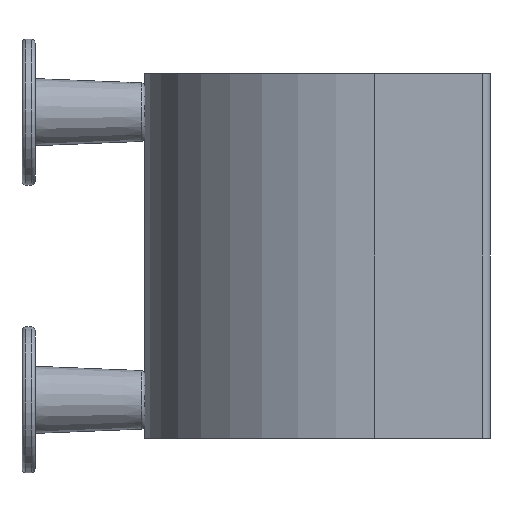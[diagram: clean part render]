
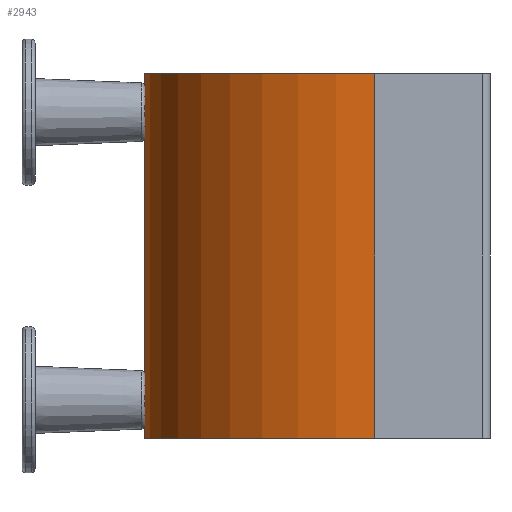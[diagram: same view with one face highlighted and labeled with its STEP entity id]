
A CAD part, left-side view. The second image highlights one B-rep face of the part: STEP entity #2943.
In plain terms, the highlighted cylindrical face has radius 76.2 mm (diameter 152.4 mm), a partial arc.
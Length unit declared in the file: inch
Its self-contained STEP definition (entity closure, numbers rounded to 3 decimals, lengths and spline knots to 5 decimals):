
#49 = CARTESIAN_POINT ( 'NONE',  ( -2.375, 4.49829, -2.89886 ) ) ;
#89 = CARTESIAN_POINT ( 'NONE',  ( 1.92987, 4.49705, -2.86691 ) ) ;
#117 = VERTEX_POINT ( 'NONE', #6346 ) ;
#218 = CARTESIAN_POINT ( 'NONE',  ( -1.81373, 4.49728, -2.8722 ) ) ;
#227 = VECTOR ( 'NONE', #1050, 39.37008 ) ;
#435 = VERTEX_POINT ( 'NONE', #1189 ) ;
#483 = DIRECTION ( 'NONE',  ( -1., 0., 0. ) ) ;
#512 = CARTESIAN_POINT ( 'NONE',  ( 1.8203, 4.49704, -2.8668 ) ) ;
#546 = CARTESIAN_POINT ( 'NONE',  ( -1.91552, 4.49665, -2.85809 ) ) ;
#549 = VERTEX_POINT ( 'NONE', #7530 ) ;
#563 = CIRCLE ( 'NONE', #608, 3. ) ;
#608 = AXIS2_PLACEMENT_3D ( 'NONE', #5923, #2394, #6517 ) ;
#610 = VERTEX_POINT ( 'NONE', #4555 ) ;
#695 = CARTESIAN_POINT ( 'NONE',  ( 1.9079, 4.49648, -2.85475 ) ) ;
#791 = CARTESIAN_POINT ( 'NONE',  ( -2.375, 1.5, 0. ) ) ;
#800 = EDGE_CURVE ( 'NONE', #1007, #5560, #6532, .T. ) ;
#822 = CARTESIAN_POINT ( 'NONE',  ( -1.83448, 4.49664, -2.85808 ) ) ;
#991 = VERTEX_POINT ( 'NONE', #6593 ) ;
#1007 = VERTEX_POINT ( 'NONE', #3057 ) ;
#1050 = DIRECTION ( 'NONE',  ( -1., 0., 0. ) ) ;
#1106 = CARTESIAN_POINT ( 'NONE',  ( 1.80245, 4.49778, -2.88444 ) ) ;
#1152 = CARTESIAN_POINT ( 'NONE',  ( -1.93628, 4.49728, -2.87222 ) ) ;
#1189 = CARTESIAN_POINT ( 'NONE',  ( 1.95617, 4.49829, -2.89886 ) ) ;
#1257 = VECTOR ( 'NONE', #4035, 39.37008 ) ;
#1294 = CARTESIAN_POINT ( 'NONE',  ( 1.88343, 4.4962, -2.849 ) ) ;
#1329 = B_SPLINE_CURVE_WITH_KNOTS ( 'NONE', 3,
 ( #2875, #6997, #3460, #7591, #4041, #512, #4654, #1106, #5261, #1719 ),
 .UNSPECIFIED., .F., .F.,
 ( 4, 2, 2, 2, 4 ),
 ( 0., 0.00063, 0.00127, 0.0019, 0.00253 ),
 .UNSPECIFIED. ) ;
#1420 = CARTESIAN_POINT ( 'NONE',  ( -1.85817, 4.49626, -2.85018 ) ) ;
#1451 = EDGE_CURVE ( 'NONE', #610, #117, #4695, .T. ) ;
#1611 = VECTOR ( 'NONE', #483, 39.37008 ) ;
#1719 = CARTESIAN_POINT ( 'NONE',  ( 1.79383, 4.49829, -2.89886 ) ) ;
#1736 = FACE_OUTER_BOUND ( 'NONE', #4843, .T. ) ;
#1758 = CARTESIAN_POINT ( 'NONE',  ( -1.9524, 4.49804, -2.89142 ) ) ;
#1939 = CARTESIAN_POINT ( 'NONE',  ( 2.375, 4.49829, -2.89886 ) ) ;
#1955 = ORIENTED_EDGE ( 'NONE', *, *, #1451, .T. ) ;
#2021 = CARTESIAN_POINT ( 'NONE',  ( -1.875, 4.4962, -2.849 ) ) ;
#2145 = CARTESIAN_POINT ( 'NONE',  ( 1.79383, 4.49829, -2.89886 ) ) ;
#2217 = EDGE_CURVE ( 'NONE', #991, #5698, #4560, .T. ) ;
#2394 = DIRECTION ( 'NONE',  ( 1., 0., 0. ) ) ;
#2533 = B_SPLINE_CURVE_WITH_KNOTS ( 'NONE', 3,
 ( #7144, #6579, #7175, #3638, #89, #4220, #695, #4840, #1294, #5437 ),
 .UNSPECIFIED., .F., .F.,
 ( 4, 2, 2, 2, 4 ),
 ( 0.01192, 0.01255, 0.01319, 0.01382, 0.01445 ),
 .UNSPECIFIED. ) ;
#2546 = DIRECTION ( 'NONE',  ( -1., 0., 0. ) ) ;
#2709 = ORIENTED_EDGE ( 'NONE', *, *, #7642, .T. ) ;
#2802 = AXIS2_PLACEMENT_3D ( 'NONE', #6798, #3251, #7386 ) ;
#2875 = CARTESIAN_POINT ( 'NONE',  ( 1.875, 4.4962, -2.849 ) ) ;
#2943 = ADVANCED_FACE ( 'NONE', ( #1736 ), #6090, .T. ) ;
#3005 = LINE ( 'NONE', #3448, #1257 ) ;
#3057 = CARTESIAN_POINT ( 'NONE',  ( -1.95617, 4.49829, -2.89886 ) ) ;
#3088 = CARTESIAN_POINT ( 'NONE',  ( 2.375, 1.5, -3. ) ) ;
#3139 = CARTESIAN_POINT ( 'NONE',  ( -1.79383, 4.49829, -2.89886 ) ) ;
#3251 = DIRECTION ( 'NONE',  ( 1., 0., 0. ) ) ;
#3433 = CARTESIAN_POINT ( 'NONE',  ( 2.375, 1.5, 0. ) ) ;
#3448 = CARTESIAN_POINT ( 'NONE',  ( 2.375, 4.49829, -2.89886 ) ) ;
#3460 = CARTESIAN_POINT ( 'NONE',  ( 1.85833, 4.49626, -2.85015 ) ) ;
#3582 = VERTEX_POINT ( 'NONE', #2145 ) ;
#3638 = CARTESIAN_POINT ( 'NONE',  ( 1.93627, 4.49728, -2.8722 ) ) ;
#3752 = CARTESIAN_POINT ( 'NONE',  ( -1.80241, 4.49778, -2.88449 ) ) ;
#3902 = EDGE_CURVE ( 'NONE', #3582, #610, #3005, .T. ) ;
#3968 = VERTEX_POINT ( 'NONE', #6489 ) ;
#3976 = ORIENTED_EDGE ( 'NONE', *, *, #3902, .T. ) ;
#4035 = DIRECTION ( 'NONE',  ( -1., 0., 0. ) ) ;
#4041 = CARTESIAN_POINT ( 'NONE',  ( 1.83448, 4.49665, -2.85809 ) ) ;
#4060 = CARTESIAN_POINT ( 'NONE',  ( -1.875, 4.4962, -2.849 ) ) ;
#4084 = CARTESIAN_POINT ( 'NONE',  ( -1.90777, 4.49648, -2.85469 ) ) ;
#4220 = CARTESIAN_POINT ( 'NONE',  ( 1.91552, 4.49664, -2.85808 ) ) ;
#4346 = CARTESIAN_POINT ( 'NONE',  ( -1.82013, 4.49705, -2.86691 ) ) ;
#4555 = CARTESIAN_POINT ( 'NONE',  ( -1.79383, 4.49829, -2.89886 ) ) ;
#4560 = LINE ( 'NONE', #3433, #1611 ) ;
#4601 = ORIENTED_EDGE ( 'NONE', *, *, #5223, .F. ) ;
#4654 = CARTESIAN_POINT ( 'NONE',  ( 1.81372, 4.49728, -2.87222 ) ) ;
#4695 = B_SPLINE_CURVE_WITH_KNOTS ( 'NONE', 3,
 ( #3139, #6125, #3752, #218, #4346, #822, #4968, #1420, #5555, #2021 ),
 .UNSPECIFIED., .F., .F.,
 ( 4, 2, 2, 2, 4 ),
 ( 0.01192, 0.01255, 0.01319, 0.01382, 0.01445 ),
 .UNSPECIFIED. ) ;
#4705 = CARTESIAN_POINT ( 'NONE',  ( -1.9297, 4.49704, -2.8668 ) ) ;
#4840 = CARTESIAN_POINT ( 'NONE',  ( 1.89183, 4.49626, -2.85018 ) ) ;
#4843 = EDGE_LOOP ( 'NONE', ( #2709, #5072, #5185, #3976, #1955, #5107, #7448, #7540, #6595, #4601 ) ) ;
#4968 = CARTESIAN_POINT ( 'NONE',  ( -1.8421, 4.49648, -2.85475 ) ) ;
#5072 = ORIENTED_EDGE ( 'NONE', *, *, #7194, .T. ) ;
#5107 = ORIENTED_EDGE ( 'NONE', *, *, #7423, .T. ) ;
#5185 = ORIENTED_EDGE ( 'NONE', *, *, #7043, .T. ) ;
#5223 = EDGE_CURVE ( 'NONE', #549, #991, #5410, .T. ) ;
#5225 = CARTESIAN_POINT ( 'NONE',  ( 2.375, 4.49829, -2.89886 ) ) ;
#5261 = CARTESIAN_POINT ( 'NONE',  ( 1.7976, 4.49804, -2.89142 ) ) ;
#5302 = CARTESIAN_POINT ( 'NONE',  ( -1.94755, 4.49778, -2.88444 ) ) ;
#5410 = CIRCLE ( 'NONE', #2802, 3. ) ;
#5437 = CARTESIAN_POINT ( 'NONE',  ( 1.875, 4.4962, -2.849 ) ) ;
#5488 = B_SPLINE_CURVE_WITH_KNOTS ( 'NONE', 3,
 ( #4060, #7036, #7640, #4084, #546, #4705, #1152, #5302, #1758, #5900 ),
 .UNSPECIFIED., .F., .F.,
 ( 4, 2, 2, 2, 4 ),
 ( 0., 0.00063, 0.00127, 0.0019, 0.00253 ),
 .UNSPECIFIED. ) ;
#5555 = CARTESIAN_POINT ( 'NONE',  ( -1.86657, 4.4962, -2.849 ) ) ;
#5560 = VERTEX_POINT ( 'NONE', #49 ) ;
#5698 = VERTEX_POINT ( 'NONE', #791 ) ;
#5900 = CARTESIAN_POINT ( 'NONE',  ( -1.95617, 4.49829, -2.89886 ) ) ;
#5923 = CARTESIAN_POINT ( 'NONE',  ( -2.375, 1.5, -3. ) ) ;
#6062 = EDGE_CURVE ( 'NONE', #5560, #5698, #563, .T. ) ;
#6090 = CYLINDRICAL_SURFACE ( 'NONE', #7176, 3. ) ;
#6125 = CARTESIAN_POINT ( 'NONE',  ( -1.79759, 4.49804, -2.89144 ) ) ;
#6346 = CARTESIAN_POINT ( 'NONE',  ( -1.875, 4.4962, -2.849 ) ) ;
#6489 = CARTESIAN_POINT ( 'NONE',  ( 1.875, 4.4962, -2.849 ) ) ;
#6517 = DIRECTION ( 'NONE',  ( 0., 0., -1. ) ) ;
#6532 = LINE ( 'NONE', #5225, #227 ) ;
#6579 = CARTESIAN_POINT ( 'NONE',  ( 1.95241, 4.49804, -2.89144 ) ) ;
#6593 = CARTESIAN_POINT ( 'NONE',  ( 2.375, 1.5, 0. ) ) ;
#6595 = ORIENTED_EDGE ( 'NONE', *, *, #2217, .F. ) ;
#6650 = DIRECTION ( 'NONE',  ( -1., 0., 0. ) ) ;
#6798 = CARTESIAN_POINT ( 'NONE',  ( 2.375, 1.5, -3. ) ) ;
#6997 = CARTESIAN_POINT ( 'NONE',  ( 1.86657, 4.4962, -2.849 ) ) ;
#7036 = CARTESIAN_POINT ( 'NONE',  ( -1.88343, 4.4962, -2.849 ) ) ;
#7043 = EDGE_CURVE ( 'NONE', #3968, #3582, #1329, .T. ) ;
#7111 = VECTOR ( 'NONE', #2546, 39.37008 ) ;
#7144 = CARTESIAN_POINT ( 'NONE',  ( 1.95617, 4.49829, -2.89886 ) ) ;
#7175 = CARTESIAN_POINT ( 'NONE',  ( 1.94759, 4.49778, -2.88449 ) ) ;
#7176 = AXIS2_PLACEMENT_3D ( 'NONE', #3088, #6650, #7223 ) ;
#7194 = EDGE_CURVE ( 'NONE', #435, #3968, #2533, .T. ) ;
#7223 = DIRECTION ( 'NONE',  ( 0., 0., 1. ) ) ;
#7309 = LINE ( 'NONE', #1939, #7111 ) ;
#7386 = DIRECTION ( 'NONE',  ( 0., 0., -1. ) ) ;
#7423 = EDGE_CURVE ( 'NONE', #117, #1007, #5488, .T. ) ;
#7448 = ORIENTED_EDGE ( 'NONE', *, *, #800, .T. ) ;
#7530 = CARTESIAN_POINT ( 'NONE',  ( 2.375, 4.49829, -2.89886 ) ) ;
#7540 = ORIENTED_EDGE ( 'NONE', *, *, #6062, .T. ) ;
#7591 = CARTESIAN_POINT ( 'NONE',  ( 1.84223, 4.49648, -2.85469 ) ) ;
#7640 = CARTESIAN_POINT ( 'NONE',  ( -1.89167, 4.49626, -2.85015 ) ) ;
#7642 = EDGE_CURVE ( 'NONE', #549, #435, #7309, .T. ) ;
